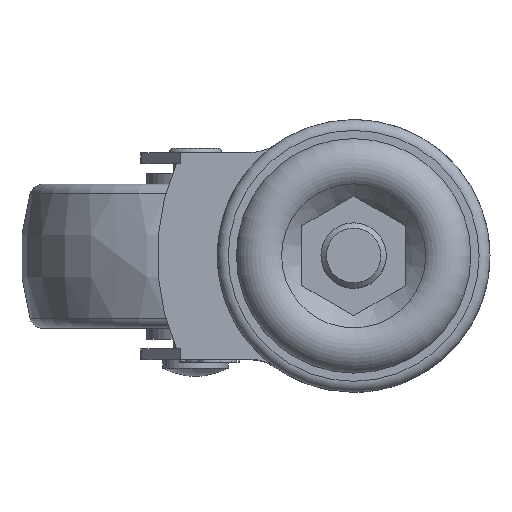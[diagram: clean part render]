
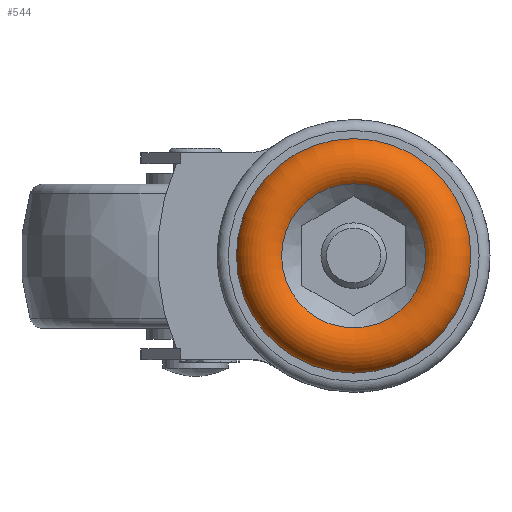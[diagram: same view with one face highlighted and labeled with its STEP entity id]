
A CAD part, top view. The second image highlights one B-rep face of the part: STEP entity #544.
In plain terms, the highlighted toroidal (fillet/blend) face has major radius 16.75 mm and minor radius 5 mm.
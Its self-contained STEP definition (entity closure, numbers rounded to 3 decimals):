
#432=TOROIDAL_SURFACE('',#6374,16.75,5.);
#544=ADVANCED_FACE('',(#1512,#1513),#432,.T.);
#1512=FACE_BOUND('',#1785,.T.);
#1513=FACE_BOUND('',#1786,.T.);
#1785=EDGE_LOOP('',(#2808));
#1786=EDGE_LOOP('',(#2809));
#2209=CIRCLE('',#6372,13.207);
#2210=CIRCLE('',#6373,21.5);
#2808=ORIENTED_EDGE('',*,*,#4962,.F.);
#2809=ORIENTED_EDGE('',*,*,#4963,.T.);
#4311=VERTEX_POINT('',#12233);
#4312=VERTEX_POINT('',#12235);
#4962=EDGE_CURVE('',#4311,#4311,#2209,.T.);
#4963=EDGE_CURVE('',#4312,#4312,#2210,.T.);
#6372=AXIS2_PLACEMENT_3D('',#12232,#7213,#7214);
#6373=AXIS2_PLACEMENT_3D('',#12234,#7215,#7216);
#6374=AXIS2_PLACEMENT_3D('',#12236,#7217,#7218);
#7213=DIRECTION('',(0.,0.,1.));
#7214=DIRECTION('',(0.,-1.,0.));
#7215=DIRECTION('',(0.,0.,1.));
#7216=DIRECTION('',(0.,-1.,0.));
#7217=DIRECTION('',(0.,0.,1.));
#7218=DIRECTION('',(0.,-1.,0.));
#12232=CARTESIAN_POINT('',(0.,0.,-31.282));
#12233=CARTESIAN_POINT('',(0.,-13.207,-31.282));
#12234=CARTESIAN_POINT('',(0.,0.,-33.249));
#12235=CARTESIAN_POINT('',(0.,-21.5,-33.249));
#12236=CARTESIAN_POINT('',(0.,0.,-34.81));
